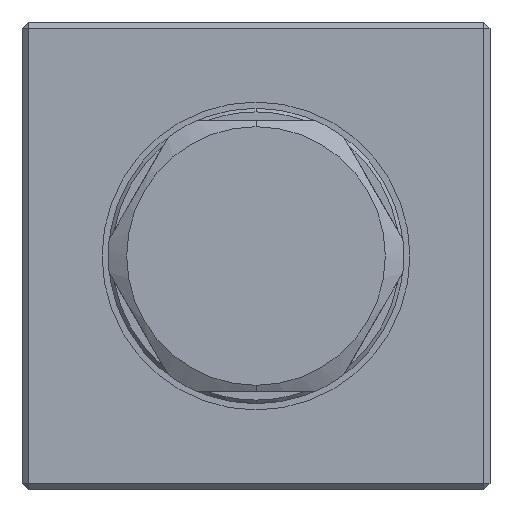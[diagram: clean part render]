
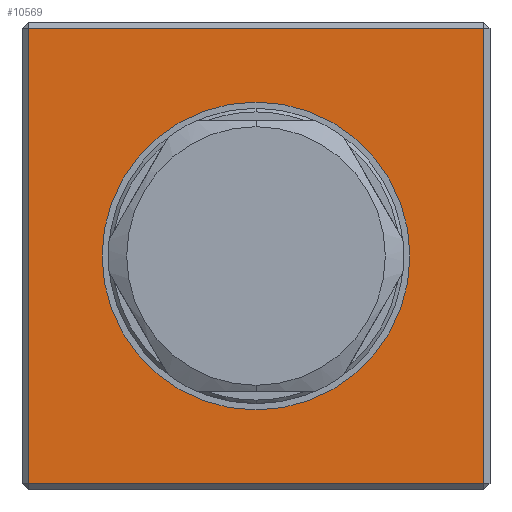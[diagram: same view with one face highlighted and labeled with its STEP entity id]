
A CAD part, left-side view. The second image highlights one B-rep face of the part: STEP entity #10569.
In plain terms, the highlighted planar face has unit normal (-1, 0, 0).
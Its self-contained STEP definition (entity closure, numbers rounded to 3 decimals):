
#10038 = EDGE_CURVE ( 'NONE', #11124, #11125, #29830, .T. ) ;
#10040 = ORIENTED_EDGE ( 'NONE', *, *, #10184, .T. ) ;
#10041 = ORIENTED_EDGE ( 'NONE', *, *, #10185, .T. ) ;
#10042 = ORIENTED_EDGE ( 'NONE', *, *, #10038, .T. ) ;
#10043 = ORIENTED_EDGE ( 'NONE', *, *, #10186, .T. ) ;
#10045 = ORIENTED_EDGE ( 'NONE', *, *, #10187, .F. ) ;
#10047 = ORIENTED_EDGE ( 'NONE', *, *, #10453, .F. ) ;
#10184 = EDGE_CURVE ( 'NONE', #11123, #11124, #29833, .T. ) ;
#10185 = EDGE_CURVE ( 'NONE', #11125, #11126, #29837, .T. ) ;
#10186 = EDGE_CURVE ( 'NONE', #11126, #11123, #29840, .T. ) ;
#10187 = EDGE_CURVE ( 'NONE', #10986, #10985, #27726, .T. ) ;
#10453 = EDGE_CURVE ( 'NONE', #10985, #10986, #31438, .T. ) ;
#10569 = ADVANCED_FACE ( 'NONE', ( #31931, #31936 ), #32043, .F. ) ;
#10963 = EDGE_LOOP ( 'NONE', ( #10040, #10042, #10041, #10043 ) ) ;
#10985 = VERTEX_POINT ( 'NONE', #33488 ) ;
#10986 = VERTEX_POINT ( 'NONE', #33489 ) ;
#11123 = VERTEX_POINT ( 'NONE', #33591 ) ;
#11124 = VERTEX_POINT ( 'NONE', #33592 ) ;
#11125 = VERTEX_POINT ( 'NONE', #33593 ) ;
#11126 = VERTEX_POINT ( 'NONE', #33594 ) ;
#11167 = EDGE_LOOP ( 'NONE', ( #10045, #10047 ) ) ;
#27726 = CIRCLE ( 'NONE', #29660, 12.5 ) ;
#29660 = AXIS2_PLACEMENT_3D ( 'NONE', #29836, #29843, #29844 ) ;
#29661 = VECTOR ( 'NONE', #29832, 1000. ) ;
#29662 = VECTOR ( 'NONE', #29835, 1000. ) ;
#29663 = VECTOR ( 'NONE', #29839, 1000. ) ;
#29665 = VECTOR ( 'NONE', #29842, 1000. ) ;
#29830 = LINE ( 'NONE', #29831, #29661 ) ;
#29831 = CARTESIAN_POINT ( 'NONE',  ( 0., -18.5, 19. ) ) ;
#29832 = DIRECTION ( 'NONE',  ( 0., 0., 1. ) ) ;
#29833 = LINE ( 'NONE', #29834, #29662 ) ;
#29834 = CARTESIAN_POINT ( 'NONE',  ( 0., -19., -18.5 ) ) ;
#29835 = DIRECTION ( 'NONE',  ( 0., -1., 0. ) ) ;
#29836 = CARTESIAN_POINT ( 'NONE',  ( 0., 0., 0. ) ) ;
#29837 = LINE ( 'NONE', #29838, #29663 ) ;
#29838 = CARTESIAN_POINT ( 'NONE',  ( 0., -19., 18.5 ) ) ;
#29839 = DIRECTION ( 'NONE',  ( 0., 1., 0. ) ) ;
#29840 = LINE ( 'NONE', #29841, #29665 ) ;
#29841 = CARTESIAN_POINT ( 'NONE',  ( 0., 18.5, 19. ) ) ;
#29842 = DIRECTION ( 'NONE',  ( 0., 0., -1. ) ) ;
#29843 = DIRECTION ( 'NONE',  ( -1., 0., 0. ) ) ;
#29844 = DIRECTION ( 'NONE',  ( 0., -1., 0. ) ) ;
#31283 = CARTESIAN_POINT ( 'NONE',  ( 0., 0., 0. ) ) ;
#31284 = DIRECTION ( 'NONE',  ( -1., 0., 0. ) ) ;
#31285 = DIRECTION ( 'NONE',  ( 0., -1., 0. ) ) ;
#31352 = AXIS2_PLACEMENT_3D ( 'NONE', #31283, #31284, #31285 ) ;
#31438 = CIRCLE ( 'NONE', #31352, 12.5 ) ;
#31931 = FACE_OUTER_BOUND ( 'NONE', #10963, .T. ) ;
#31936 = FACE_BOUND ( 'NONE', #11167, .T. ) ;
#31938 = AXIS2_PLACEMENT_3D ( 'NONE', #32044, #32045, #32046 ) ;
#32043 = PLANE ( 'NONE',  #31938 ) ;
#32044 = CARTESIAN_POINT ( 'NONE',  ( 0., -19., 19. ) ) ;
#32045 = DIRECTION ( 'NONE',  ( 1., 0., 0. ) ) ;
#32046 = DIRECTION ( 'NONE',  ( 0., 0., -1. ) ) ;
#33488 = CARTESIAN_POINT ( 'NONE',  ( 0., 12.5, 0. ) ) ;
#33489 = CARTESIAN_POINT ( 'NONE',  ( 0., -12.5, 0. ) ) ;
#33591 = CARTESIAN_POINT ( 'NONE',  ( 0., 18.5, -18.5 ) ) ;
#33592 = CARTESIAN_POINT ( 'NONE',  ( 0., -18.5, -18.5 ) ) ;
#33593 = CARTESIAN_POINT ( 'NONE',  ( 0., -18.5, 18.5 ) ) ;
#33594 = CARTESIAN_POINT ( 'NONE',  ( 0., 18.5, 18.5 ) ) ;
